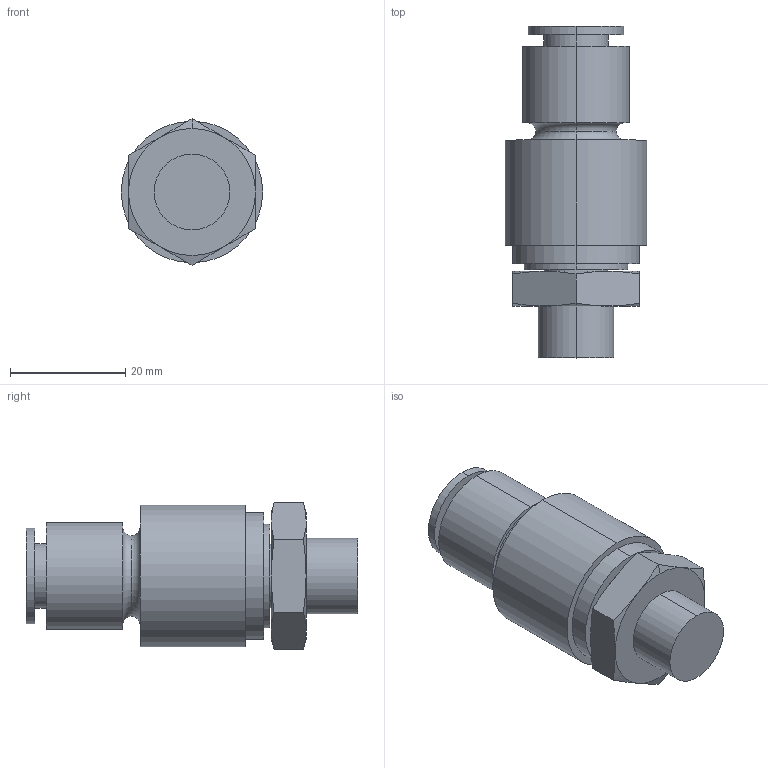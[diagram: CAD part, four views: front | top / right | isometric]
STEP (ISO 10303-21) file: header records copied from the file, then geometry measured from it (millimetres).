
FILE_DESCRIPTION (( 'STEP AP203' ), '1' );
FILE_NAME ('FKXH10-02.STEP', '2022-04-18T15:19:22', ( '' ), ( '' ), 'SwSTEP 2.0', 'SolidWorks 2019', '' );
FILE_SCHEMA (( 'CONFIG_CONTROL_DESIGN' ));
Length unit declared in the file: millimetre
Products named in the file (1): FKXH10-02
Bounding box: 24.5 x 57.5 x 25.4 mm (x, y, z)
Volume: 16762.7 mm3; surface area: 6210.5 mm2
Topology: 1 solids, 1 shells, 54 faces, 110 edges, 68 vertices
Faces by surface type: cylinder 18, plane 18, cone 14, torus 4
Entity records: 1823 total; most frequent: CARTESIAN_POINT 601, DIRECTION 256, ORIENTED_EDGE 220, AXIS2_PLACEMENT_3D 115, EDGE_CURVE 110, VERTEX_POINT 68, EDGE_LOOP 64, CIRCLE 60
